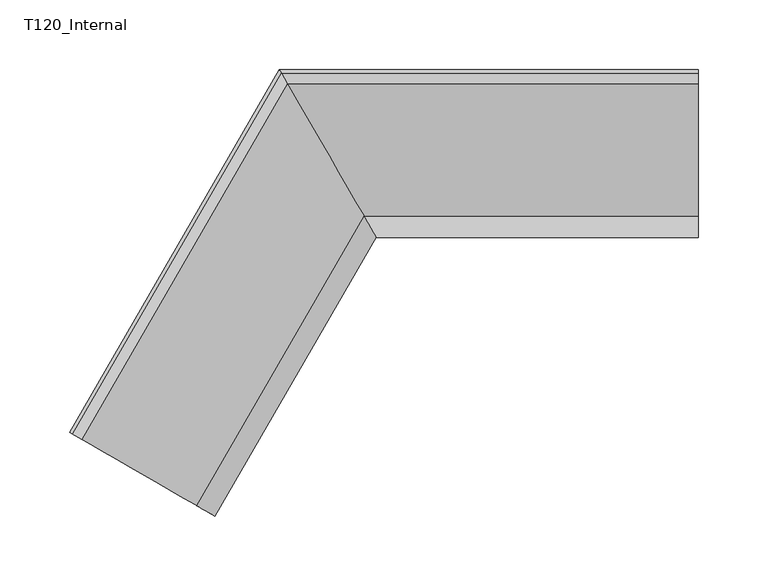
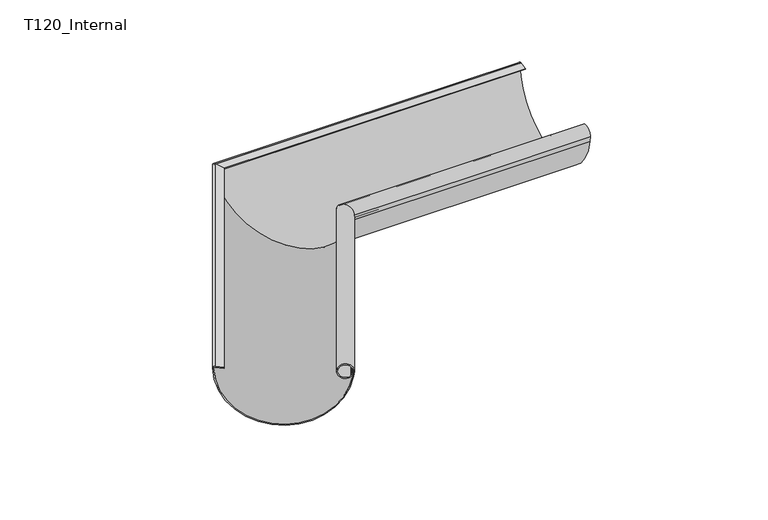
"""IFC4 building model written with IfcOpenShell, lengths in millimetres: proxy geometry, GROVIK_Gutter_Corner_Custom : T120_Internal."""

from ifc_helpers import new_model, si_unit, frame, origin, place, context, project, spatial, polyline, circle_curve, ellipse_curve, source, transform, mapped, element, save
from ifc_brep_helpers import plane_surface, cylinder_surface, revolved_surface, advanced_brep


def t120_internal_7829b9d1(model_context):
    return source(origin(), model_context, "Body", "AdvancedBrep", [
        advanced_brep(
        [(-46.722216, -319.4350776, -10.4251966), (-46.0812306, -319.8051506, -5.2006666), (-48.1665741, -318.601177, -10.6080252), (-47.5219691, -318.9733399, -9.0063664), (-47.0446675, -319.2489101, -5.5500325), (-47.8132814, -318.8051506, -5.4006666), (-48.3031292, -318.5223369, -8.9478528), (-48.7181899, -318.2827015, -9.9710741), (-46.8652466, -319.3524987, -5.3813466), (-47.5775583, -318.9412454, -10.26861), (-149.1304977, -260.3096285, -2.0579588), (-148.0103004, -260.9563747, -0.9559749), (-141.5252941, -264.7004949, -2.295228), (-141.3880736, -264.7797192, -1.4092855), (-148.0946795, -260.9076584, -0.0242687), (-150.0, -259.8076211, -1.8), (0.057735, 0.1, -1.8), (68.9095911, -119.1549128, -10.4251966), (1.3279487, -2.1000746, -0.0242687), (5.7990193, -9.8441961, -1.4092855), (5.707539, -9.6857475, -2.295228), (1.3842014, -2.1975071, -0.9559749), (0.6374032, -0.9040147, -2.0579588), (68.3393628, -118.1672486, -10.26861), (68.8142373, -118.9897552, -5.3813466), (67.5789418, -116.8501607, -9.9710741), (67.8556489, -117.3294315, -8.9478528), (68.1822141, -117.895059, -5.4006666), (68.6946234, -118.7825779, -5.5500325), (68.3764223, -118.2314375, -9.0063664), (67.9466857, -117.4871118, -10.6080252), (69.3369146, -119.895059, -5.2006666)],
        [
            (0, 1),
            (1, 2, circle_curve(frame((-52.5764211, -316.0551506, -5.1006666), z_axis=(-0.4999999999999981, -0.8660254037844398, 0.0), x_axis=(0.8660254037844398, -0.4999999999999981, 0.0)), 7.5006666)),
            (2, 3, circle_curve(frame((-50.2845628, -317.3783557, -8.4977001), z_axis=(-0.4999999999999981, -0.8660254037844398, 0.0), x_axis=(0.8660254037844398, -0.4999999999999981, 0.0)), 3.2302694)),
            (3, 4),
            (4, 5),
            (5, 6),
            (6, 7, circle_curve(frame((-50.0519505, -317.5126544, -8.6258487), z_axis=(0.4999999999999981, 0.8660254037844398, 0.0), x_axis=(0.8660254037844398, -0.4999999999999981, 0.0)), 2.0448768)),
            (7, 8, circle_curve(frame((-52.5764211, -316.0551506, -5.1006666), z_axis=(0.4999999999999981, 0.8660254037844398, 0.0), x_axis=(0.8660254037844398, -0.4999999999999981, 0.0)), 6.6006666)),
            (8, 9),
            (9, 10, circle_curve(frame((-98.0427548, -289.8051506, -1.03), z_axis=(0.4999999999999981, 0.8660254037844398, 0.0), x_axis=(0.8660254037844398, -0.4999999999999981, 0.0)), 59.0)),
            (10, 11, circle_curve(frame((-148.1780144, -260.859545, -2.0387934), z_axis=(0.4999999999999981, 0.8660254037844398, 0.0), x_axis=(0.8660254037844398, -0.4999999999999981, 0.0)), 1.1)),
            (11, 12),
            (12, 13),
            (13, 14),
            (14, 15, circle_curve(frame((-148.3568323, -260.7563044, -1.9), z_axis=(-0.4999999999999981, -0.8660254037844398, 0.0), x_axis=(0.8660254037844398, -0.4999999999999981, 0.0)), 1.9)),
            (15, 0, circle_curve(frame((-98.0427548, -289.8051506, -1.03), z_axis=(-0.4999999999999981, -0.8660254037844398, 0.0), x_axis=(0.8660254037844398, -0.4999999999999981, 0.0)), 60.0)),
            (15, 16),
            (16, 17, ellipse_curve(frame((34.6958985, -59.895059, -1.03), z_axis=(-0.8660254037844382, -0.500000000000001, 0.0), x_axis=(0.5000000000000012, -0.8660254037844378, 0.0)), 69.2820323, 60.0)),
            (17, 0),
            (14, 18),
            (18, 16, ellipse_curve(frame((1.1531801, -1.7973666, -1.9), z_axis=(-0.8660254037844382, -0.500000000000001, 0.0), x_axis=(0.5000000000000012, -0.8660254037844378, 0.0)), 2.193931, 1.9)),
            (13, 19),
            (19, 18),
            (12, 20),
            (20, 19),
            (11, 21),
            (21, 20),
            (10, 22),
            (22, 21, ellipse_curve(frame((1.2723921, -2.0038477, -2.0387934), z_axis=(0.8660254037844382, 0.500000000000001, 0.0), x_axis=(-0.5000000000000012, 0.8660254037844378, 0.0)), 1.2701706, 1.1)),
            (9, 23),
            (23, 22, ellipse_curve(frame((34.6958985, -59.895059, -1.03), z_axis=(0.8660254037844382, 0.500000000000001, 0.0), x_axis=(-0.5000000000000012, 0.8660254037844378, 0.0)), 68.1273318, 59.0)),
            (8, 24),
            (24, 23),
            (7, 25),
            (25, 24, ellipse_curve(frame((65.0067876, -112.395059, -5.1006666), z_axis=(0.8660254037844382, 0.500000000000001, 0.0), x_axis=(-0.5000000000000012, 0.8660254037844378, 0.0)), 7.6217933, 6.6006666)),
            (6, 26),
            (26, 25, ellipse_curve(frame((66.689768, -115.3100665, -8.6258487), z_axis=(0.8660254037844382, 0.500000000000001, 0.0), x_axis=(-0.5000000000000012, 0.8660254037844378, 0.0)), 2.3612204, 2.0448768)),
            (5, 27),
            (27, 26),
            (4, 28),
            (28, 27),
            (3, 29),
            (29, 28),
            (2, 30),
            (30, 29, ellipse_curve(frame((66.5346932, -115.041469, -8.4977001), z_axis=(-0.8660254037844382, -0.500000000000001, 0.0), x_axis=(0.5000000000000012, -0.8660254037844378, 0.0)), 3.7299938, 3.2302694)),
            (1, 31),
            (31, 30, ellipse_curve(frame((65.0067876, -112.395059, -5.1006666), z_axis=(-0.8660254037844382, -0.500000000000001, 0.0), x_axis=(0.5000000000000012, -0.8660254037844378, 0.0)), 8.6610238, 7.5006666)),
            (17, 31),
        ],
        [
            plane_surface(frame((-150.0, -259.8076211, 0.0), z_axis=(-0.4999999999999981, -0.8660254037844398, 0.0), x_axis=(0.0, 0.0, 1.0))),
            cylinder_surface(frame((-98.0427548, -289.8051506, -1.03), z_axis=(-0.4999999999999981, -0.8660254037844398, 0.0), x_axis=(0.8660254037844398, -0.4999999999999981, 0.0)), 60.0),
            cylinder_surface(frame((-148.3568323, -260.7563044, -1.9), z_axis=(-0.4999999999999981, -0.8660254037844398, 0.0), x_axis=(0.8660254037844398, -0.4999999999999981, 0.0)), 1.9),
            plane_surface(frame((-148.0946795, -260.9076584, -0.0242687), z_axis=(0.1524672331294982, -0.08802699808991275, 0.984380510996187), x_axis=(0.4999999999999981, 0.8660254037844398, 0.0))),
            plane_surface(frame((-141.3880736, -264.7797192, -1.4092855), z_axis=(0.8524985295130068, -0.4921902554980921, -0.17605399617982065), x_axis=(0.4999999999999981, 0.8660254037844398, 0.0))),
            plane_surface(frame((-141.5252941, -264.7004949, -2.295228), z_axis=(-0.1524672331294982, 0.08802699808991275, -0.984380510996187), x_axis=(0.4999999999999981, 0.8660254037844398, 0.0))),
            revolved_surface(polyline([(2.54256270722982, -2.0038477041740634, -2.0387934), (-147.2253864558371, -261.40954500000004, -2.0387934)]), (-148.1780144, -260.859545, -2.0387934), (0.4999999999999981, 0.8660254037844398, 0.0)),
            revolved_surface(polyline([(102.82323025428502, -59.89505897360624, -1.03), (-46.94725598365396, -319.3051506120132, -1.03)]), (-98.0427548, -289.8051506, -1.03), (0.4999999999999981, 0.8660254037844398, 0.0)),
            plane_surface(frame((-47.5775583, -318.9412454, -10.26861), z_axis=(-0.8540154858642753, 0.49306607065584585, 0.1659620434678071), x_axis=(0.4999999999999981, 0.8660254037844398, 0.0))),
            revolved_surface(polyline([(72.62858088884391, -112.39505899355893, -5.1006666), (-46.86007617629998, -319.3554839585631, -5.1006666)]), (-52.5764211, -316.0551506, -5.1006666), (0.4999999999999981, 0.8660254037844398, 0.0)),
            revolved_surface(polyline([(69.05098839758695, -115.31006649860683, -8.6258487), (-48.281035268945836, -318.5350928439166, -8.6258487)]), (-50.0519505, -317.5126544, -8.6258487), (0.4999999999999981, 0.8660254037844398, 0.0)),
            plane_surface(frame((-48.3031292, -318.5223369, -8.9478528), z_axis=(-0.8552208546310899, 0.493761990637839, 0.15746868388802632), x_axis=(0.4999999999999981, 0.8660254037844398, 0.0))),
            plane_surface(frame((-47.8132814, -318.8051506, -5.4006666), z_axis=(0.14372734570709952, -0.08298102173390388, 0.9861321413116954), x_axis=(0.4999999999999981, 0.8660254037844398, 0.0))),
            plane_surface(frame((-47.0446675, -319.2489101, -5.5500325), z_axis=(0.8552208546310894, -0.4937619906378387, -0.1574686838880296), x_axis=(0.4999999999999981, 0.8660254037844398, 0.0))),
            cylinder_surface(frame((-50.2845628, -317.3783557, -8.4977001), z_axis=(-0.4999999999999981, -0.8660254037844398, 0.0), x_axis=(0.8660254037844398, -0.4999999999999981, 0.0)), 3.2302694),
            cylinder_surface(frame((-52.5764211, -316.0551506, -5.1006666), z_axis=(-0.4999999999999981, -0.8660254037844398, 0.0), x_axis=(0.8660254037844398, -0.4999999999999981, 0.0)), 7.5006666),
            plane_surface(frame((-46.0812306, -319.8051506, -5.2006666), z_axis=(0.8574636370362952, -0.49505686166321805, -0.14026694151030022), x_axis=(0.4999999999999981, 0.8660254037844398, 0.0))),
            plane_surface(frame((69.4552374, -120.1, 250.0), z_axis=(0.8660254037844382, 0.500000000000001, 0.0), x_axis=(0.0, 0.0, -1.0))),
        ],
        [
            (0, [[1, 2, 3, 4, 5, 6, 7, 8, 9, 10, 11, 12, 13, 14, 15, 16]]),
            (1, [[17, 18, 19, -16]]),
            (2, [[20, 21, -17, -15]]),
            (3, [[22, 23, -20, -14]]),
            (4, [[24, 25, -22, -13]]),
            (5, [[26, 27, -24, -12]]),
            (6, [[28, 29, -26, -11]]),
            (7, [[30, 31, -28, -10]]),
            (8, [[32, 33, -30, -9]]),
            (9, [[34, 35, -32, -8]]),
            (10, [[36, 37, -34, -7]]),
            (11, [[38, 39, -36, -6]]),
            (12, [[40, 41, -38, -5]]),
            (13, [[42, 43, -40, -4]]),
            (14, [[44, 45, -42, -3]]),
            (15, [[46, 47, -44, -2]]),
            (16, [[-19, 48, -46, -1]]),
            (17, [[-21, -23, -25, -27, -29, -31, -33, -35, -37, -39, -41, -43, -45, -47, -48, -18]]),
        ],
    ),
        advanced_brep(
        [(300.0, -119.2549128, -10.4251966), (300.0, 0.0, -1.8), (300.0, -2.2000746, -0.0242687), (300.0, -9.9441961, -1.4092855), (300.0, -9.7857475, -2.295228), (300.0, -2.2975071, -0.9559749), (300.0, -1.0040147, -2.0579588), (300.0, -118.2672486, -10.26861), (300.0, -119.0897552, -5.3813466), (300.0, -116.9501607, -9.9710741), (300.0, -117.4294315, -8.9478528), (300.0, -117.995059, -5.4006666), (300.0, -118.8825779, -5.5500325), (300.0, -118.3314375, -9.0063664), (300.0, -117.5871118, -10.6080252), (300.0, -119.995059, -5.2006666), (68.736386, -119.2549128, -10.4251966), (-0.1154701, 0.0, -1.8), (1.1547436, -2.2000746, -0.0242687), (5.6258142, -9.9441961, -1.4092855), (5.5343339, -9.7857475, -2.295228), (1.2109963, -2.2975071, -0.9559749), (0.4641981, -1.0040147, -2.0579588), (68.1661578, -118.2672486, -10.26861), (68.6410322, -119.0897552, -5.3813466), (67.4057367, -116.9501607, -9.9710741), (67.6824438, -117.4294315, -8.9478528), (68.009009, -117.995059, -5.4006666), (68.5214183, -118.8825779, -5.5500325), (68.2032172, -118.3314375, -9.0063664), (67.7734806, -117.5871118, -10.6080252), (69.1637095, -119.995059, -5.2006666)],
        [
            (0, 1, circle_curve(frame((300.0, -59.995059, -1.03), z_axis=(1.0, 0.0, 0.0), x_axis=(0.0, -1.0, 0.0)), 60.0)),
            (1, 2, circle_curve(frame((300.0, -1.8973666, -1.9), z_axis=(1.0, 0.0, 0.0), x_axis=(0.0, -1.0, 0.0)), 1.9)),
            (2, 3),
            (3, 4),
            (4, 5),
            (5, 6, circle_curve(frame((300.0, -2.1038477, -2.0387934), z_axis=(-1.0, 0.0, 0.0), x_axis=(0.0, -1.0, 0.0)), 1.1)),
            (6, 7, circle_curve(frame((300.0, -59.995059, -1.03), z_axis=(-1.0, 0.0, 0.0), x_axis=(0.0, -1.0, 0.0)), 59.0)),
            (7, 8),
            (8, 9, circle_curve(frame((300.0, -112.495059, -5.1006666), z_axis=(-1.0, 0.0, 0.0), x_axis=(0.0, -1.0, 0.0)), 6.6006666)),
            (9, 10, circle_curve(frame((300.0, -115.4100665, -8.6258487), z_axis=(-1.0, 0.0, 0.0), x_axis=(0.0, -1.0, 0.0)), 2.0448768)),
            (10, 11),
            (11, 12),
            (12, 13),
            (13, 14, circle_curve(frame((300.0, -115.141469, -8.4977001), z_axis=(1.0, 0.0, 0.0), x_axis=(0.0, -1.0, 0.0)), 3.2302694)),
            (14, 15, circle_curve(frame((300.0, -112.495059, -5.1006666), z_axis=(1.0, 0.0, 0.0), x_axis=(0.0, -1.0, 0.0)), 7.5006666)),
            (15, 0),
            (0, 16),
            (16, 17, ellipse_curve(frame((34.5226934, -59.995059, -1.03), z_axis=(0.8660254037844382, 0.500000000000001, 0.0), x_axis=(0.5000000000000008, -0.8660254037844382, 0.0)), 69.2820323, 60.0)),
            (17, 1),
            (17, 18, ellipse_curve(frame((0.9799751, -1.8973666, -1.9), z_axis=(0.8660254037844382, 0.500000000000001, 0.0), x_axis=(0.5000000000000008, -0.8660254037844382, 0.0)), 2.193931, 1.9)),
            (18, 2),
            (18, 19),
            (19, 3),
            (19, 20),
            (20, 4),
            (20, 21),
            (21, 5),
            (21, 22, ellipse_curve(frame((1.099187, -2.1038477, -2.0387934), z_axis=(-0.8660254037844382, -0.500000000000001, 0.0), x_axis=(-0.5000000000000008, 0.8660254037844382, 0.0)), 1.2701706, 1.1)),
            (22, 6),
            (22, 23, ellipse_curve(frame((34.5226934, -59.995059, -1.03), z_axis=(-0.8660254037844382, -0.500000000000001, 0.0), x_axis=(-0.5000000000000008, 0.8660254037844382, 0.0)), 68.1273318, 59.0)),
            (23, 7),
            (23, 24),
            (24, 8),
            (24, 25, ellipse_curve(frame((64.8335825, -112.495059, -5.1006666), z_axis=(-0.8660254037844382, -0.500000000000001, 0.0), x_axis=(-0.5000000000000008, 0.8660254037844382, 0.0)), 7.6217933, 6.6006666)),
            (25, 9),
            (25, 26, ellipse_curve(frame((66.5165629, -115.4100665, -8.6258487), z_axis=(-0.8660254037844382, -0.500000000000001, 0.0), x_axis=(-0.5000000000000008, 0.8660254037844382, 0.0)), 2.3612204, 2.0448768)),
            (26, 10),
            (26, 27),
            (27, 11),
            (27, 28),
            (28, 12),
            (28, 29),
            (29, 13),
            (29, 30, ellipse_curve(frame((66.3614881, -115.141469, -8.4977001), z_axis=(0.8660254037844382, 0.500000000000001, 0.0), x_axis=(0.5000000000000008, -0.8660254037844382, 0.0)), 3.7299938, 3.2302694)),
            (30, 14),
            (30, 31, ellipse_curve(frame((64.8335825, -112.495059, -5.1006666), z_axis=(0.8660254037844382, 0.500000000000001, 0.0), x_axis=(0.5000000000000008, -0.8660254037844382, 0.0)), 8.6610238, 7.5006666)),
            (31, 15),
            (31, 16),
        ],
        [
            plane_surface(frame((300.0, 0.0, 0.0), z_axis=(1.0, 0.0, 0.0), x_axis=(0.0, 0.0, 1.0))),
            cylinder_surface(frame((300.0, -59.995059, -1.03), z_axis=(1.0, 0.0, 0.0), x_axis=(0.0, -1.0, 0.0)), 60.0),
            cylinder_surface(frame((300.0, -1.8973666, -1.9), z_axis=(1.0, 0.0, 0.0), x_axis=(0.0, -1.0, 0.0)), 1.9),
            plane_surface(frame((300.0, -2.2000746, -0.0242687), z_axis=(0.0, -0.17605399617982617, 0.9843805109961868), x_axis=(-1.0, 0.0, 0.0))),
            plane_surface(frame((300.0, -9.9441961, -1.4092855), z_axis=(0.0, -0.9843805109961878, -0.1760539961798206), x_axis=(-1.0, 0.0, 0.0))),
            plane_surface(frame((300.0, -9.7857475, -2.295228), z_axis=(0.0, 0.17605399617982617, -0.9843805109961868), x_axis=(-1.0, 0.0, 0.0))),
            revolved_surface(polyline([(0.4641016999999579, -3.2038477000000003, -2.0387934), (300.0, -3.2038477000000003, -2.0387934)]), (300.0, -2.1038477, -2.0387934), (-1.0, 0.0, 0.0)),
            revolved_surface(polyline([(0.45902749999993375, -118.995059, -1.03), (300.0, -118.995059, -1.03)]), (300.0, -59.995059, -1.03), (-1.0, 0.0, 0.0)),
            plane_surface(frame((300.0, -118.2672486, -10.26861), z_axis=(0.0, 0.9861321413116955, 0.16596204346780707), x_axis=(-1.0, 0.0, 0.0))),
            revolved_surface(polyline([(61.02268584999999, -119.0957256, -5.1006666), (300.0, -119.0957256, -5.1006666)]), (300.0, -112.495059, -5.1006666), (-1.0, 0.0, 0.0)),
            revolved_surface(polyline([(65.3359527, -117.4549433, -8.6258487), (300.0, -117.4549433, -8.6258487)]), (300.0, -115.4100665, -8.6258487), (-1.0, 0.0, 0.0)),
            plane_surface(frame((300.0, -117.4294315, -8.9478528), z_axis=(0.0, 0.9875239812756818, 0.1574686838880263), x_axis=(-1.0, 0.0, 0.0))),
            plane_surface(frame((300.0, -117.995059, -5.4006666), z_axis=(0.0, -0.1659620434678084, 0.9861321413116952), x_axis=(-1.0, 0.0, 0.0))),
            plane_surface(frame((300.0, -118.8825779, -5.5500325), z_axis=(0.0, -0.9875239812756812, -0.15746868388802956), x_axis=(-1.0, 0.0, 0.0))),
            cylinder_surface(frame((300.0, -115.141469, -8.4977001), z_axis=(1.0, 0.0, 0.0), x_axis=(0.0, -1.0, 0.0)), 3.2302694),
            cylinder_surface(frame((300.0, -112.495059, -5.1006666), z_axis=(1.0, 0.0, 0.0), x_axis=(0.0, -1.0, 0.0)), 7.5006666),
            plane_surface(frame((300.0, -119.995059, -5.2006666), z_axis=(0.0, -0.9901137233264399, -0.14026694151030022), x_axis=(-1.0, 0.0, 0.0))),
            plane_surface(frame((69.2820323, -120.2, 250.0), z_axis=(-0.8660254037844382, -0.500000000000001, 0.0), x_axis=(0.0, 0.0, -1.0))),
        ],
        [
            (0, [[1, 2, 3, 4, 5, 6, 7, 8, 9, 10, 11, 12, 13, 14, 15, 16]]),
            (1, [[-1, 17, 18, 19]]),
            (2, [[-2, -19, 20, 21]]),
            (3, [[-3, -21, 22, 23]]),
            (4, [[-4, -23, 24, 25]]),
            (5, [[-5, -25, 26, 27]]),
            (6, [[-6, -27, 28, 29]]),
            (7, [[-7, -29, 30, 31]]),
            (8, [[-8, -31, 32, 33]]),
            (9, [[-9, -33, 34, 35]]),
            (10, [[-10, -35, 36, 37]]),
            (11, [[-11, -37, 38, 39]]),
            (12, [[-12, -39, 40, 41]]),
            (13, [[-13, -41, 42, 43]]),
            (14, [[-14, -43, 44, 45]]),
            (15, [[-15, -45, 46, 47]]),
            (16, [[-16, -47, 48, -17]]),
            (17, [[-18, -48, -46, -44, -42, -40, -38, -36, -34, -32, -30, -28, -26, -24, -22, -20]]),
        ],
    ),
    ])


if __name__ == "__main__":
    model = new_model("IFC4")
    model_context = context("Model", 3, world=origin())
    ifc_project = project(units=[si_unit("LENGTHUNIT", "METRE", prefix="MILLI")], contexts=[model_context])
    site = spatial("IfcSite", under=ifc_project)
    building = spatial("IfcBuilding", under=site)
    placement = place(None, origin())
    t120_internal_shape = t120_internal_7829b9d1(model_context)
    element("IfcBuildingElementProxy", 1, Name="GROVIK_Gutter_Corner_Custom : T120_Internal", ObjectType="GROVIK_Gutter_Corner_Custom : T120_Internal", at=placement, inside=building, context=model_context, shape_type="MappedRepresentation", body=[
        mapped(t120_internal_shape, transform((0.0, 0.0, 0.0), x_axis=(1.0, 0.0, 0.0), y_axis=(0.0, 1.0, 0.0), z_axis=(0.0, 0.0, 1.0))),
    ])
    save(model, "model.ifc")
